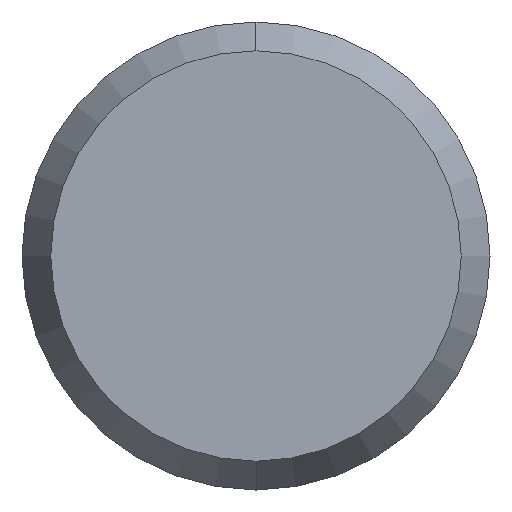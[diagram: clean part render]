
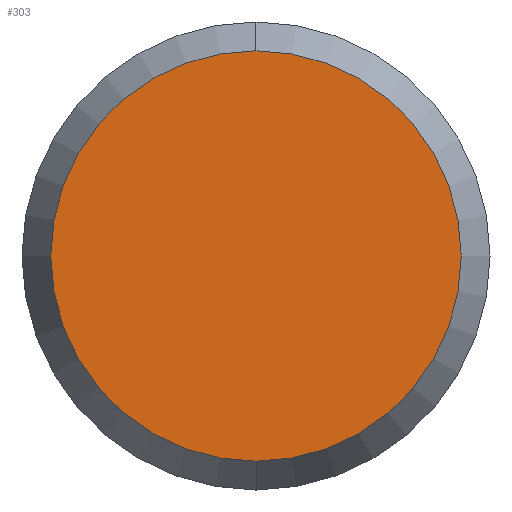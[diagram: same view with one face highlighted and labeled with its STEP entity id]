
A CAD part, left-side view. The second image highlights one B-rep face of the part: STEP entity #303.
In plain terms, the highlighted planar face has unit normal (-1, 0, 0).
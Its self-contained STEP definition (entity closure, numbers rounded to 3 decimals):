
#12 = VERTEX_POINT ( 'NONE', #247 ) ;
#80 = FACE_OUTER_BOUND ( 'NONE', #740, .T. ) ;
#113 = CIRCLE ( 'NONE', #317, 5.7 ) ;
#133 = DIRECTION ( 'NONE',  ( -1., 0., 0. ) ) ;
#247 = CARTESIAN_POINT ( 'NONE',  ( 0., 0., 5.7 ) ) ;
#251 = AXIS2_PLACEMENT_3D ( 'NONE', #463, #795, #724 ) ;
#259 = CARTESIAN_POINT ( 'NONE',  ( 0., 0., -5.7 ) ) ;
#272 = CARTESIAN_POINT ( 'NONE',  ( 0., 0., 0. ) ) ;
#298 = ORIENTED_EDGE ( 'NONE', *, *, #609, .T. ) ;
#303 = ADVANCED_FACE ( 'NONE', ( #80 ), #348, .F. ) ;
#317 = AXIS2_PLACEMENT_3D ( 'NONE', #272, #515, #346 ) ;
#346 = DIRECTION ( 'NONE',  ( 0., 0., 1. ) ) ;
#348 = PLANE ( 'NONE',  #251 ) ;
#354 = CIRCLE ( 'NONE', #533, 5.7 ) ;
#463 = CARTESIAN_POINT ( 'NONE',  ( 0., 0., 0. ) ) ;
#515 = DIRECTION ( 'NONE',  ( -1., 0., 0. ) ) ;
#533 = AXIS2_PLACEMENT_3D ( 'NONE', #769, #133, #592 ) ;
#588 = VERTEX_POINT ( 'NONE', #259 ) ;
#592 = DIRECTION ( 'NONE',  ( 0., 0., 1. ) ) ;
#609 = EDGE_CURVE ( 'NONE', #12, #588, #354, .T. ) ;
#655 = ORIENTED_EDGE ( 'NONE', *, *, #716, .T. ) ;
#716 = EDGE_CURVE ( 'NONE', #588, #12, #113, .T. ) ;
#724 = DIRECTION ( 'NONE',  ( 0., 0., -1. ) ) ;
#740 = EDGE_LOOP ( 'NONE', ( #655, #298 ) ) ;
#769 = CARTESIAN_POINT ( 'NONE',  ( 0., 0., 0. ) ) ;
#795 = DIRECTION ( 'NONE',  ( 1., 0., 0. ) ) ;
